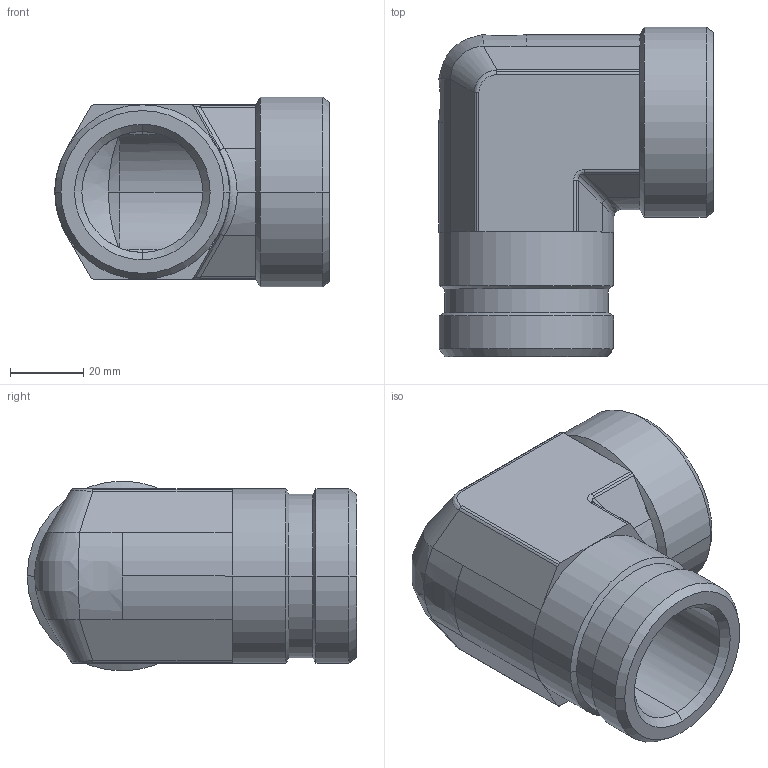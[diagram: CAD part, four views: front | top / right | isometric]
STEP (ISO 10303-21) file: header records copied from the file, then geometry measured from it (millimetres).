
FILE_DESCRIPTION((''),'2;1');
FILE_NAME('106113.stp','2007-10-31T14:50:10',(''),(''),'AutoCAD STEP 2000i','AutoCAD 2000i',', , ');
FILE_SCHEMA(('CONFIG_CONTROL_DESIGN'));
Length unit declared in the file: millimetre
Products named in the file (2): 106113.0; 3090#0
Assembly tree (1 placements, depth 2):
  106113.0
    3090#0
Bounding box: 74.88 x 89.91 x 51.82 mm (x, y, z)
Volume: 105392.7 mm3; surface area: 32366.4 mm2
Topology: 1 solids, 1 shells, 101 faces, 233 edges, 138 vertices
Faces by surface type: cylinder 46, plane 22, cone 21, bspline 12
Entity records: 3835 total; most frequent: CARTESIAN_POINT 1451, DIRECTION 496, ORIENTED_EDGE 466, EDGE_CURVE 233, AXIS2_PLACEMENT_3D 201, VERTEX_POINT 138, EDGE_LOOP 107, FACE_OUTER_BOUND 101
